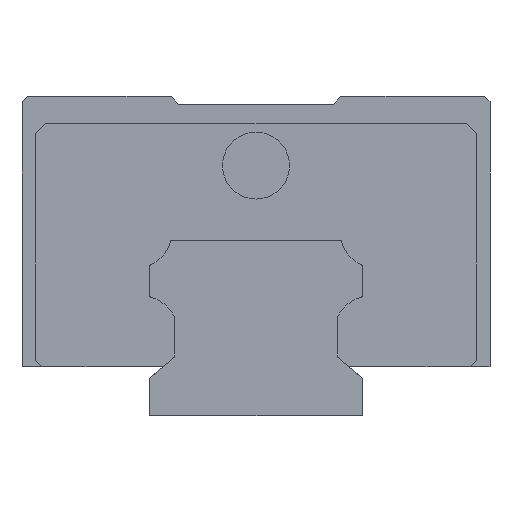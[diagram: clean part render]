
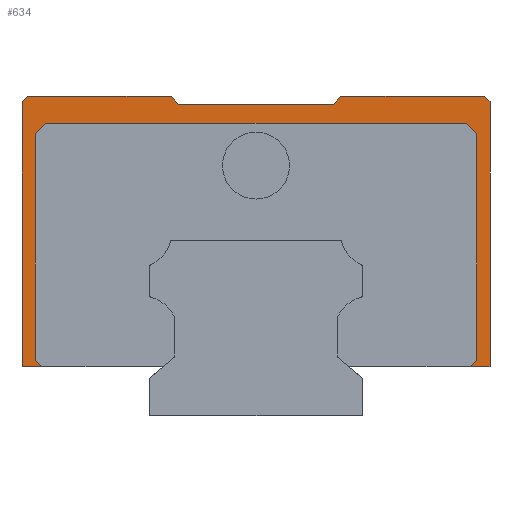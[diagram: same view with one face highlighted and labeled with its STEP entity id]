
A CAD part, left-side view. The second image highlights one B-rep face of the part: STEP entity #634.
In plain terms, the highlighted planar face has unit normal (-1, 0, 0).
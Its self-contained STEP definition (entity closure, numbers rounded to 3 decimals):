
#1 = LINE ( 'NONE', #1797, #4242 ) ;
#51 = EDGE_CURVE ( 'NONE', #1444, #1839, #5036, .T. ) ;
#104 = CARTESIAN_POINT ( 'NONE',  ( -27., -33.775, 18.225 ) ) ;
#132 = VECTOR ( 'NONE', #3317, 1000. ) ;
#138 = VECTOR ( 'NONE', #1757, 1000. ) ;
#140 = PLANE ( 'NONE',  #655 ) ;
#141 = VERTEX_POINT ( 'NONE', #4534 ) ;
#153 = CARTESIAN_POINT ( 'NONE',  ( -27., -7.333, 29.25 ) ) ;
#196 = VERTEX_POINT ( 'NONE', #3313 ) ;
#265 = CARTESIAN_POINT ( 'NONE',  ( -27., 22., 30. ) ) ;
#293 = CARTESIAN_POINT ( 'NONE',  ( -27., -2.375, 49.625 ) ) ;
#347 = EDGE_CURVE ( 'NONE', #196, #1211, #3460, .T. ) ;
#356 = LINE ( 'NONE', #153, #1604 ) ;
#438 = DIRECTION ( 'NONE',  ( 0., -0.707, -0.707 ) ) ;
#492 = CARTESIAN_POINT ( 'NONE',  ( -27., -20.75, 30. ) ) ;
#529 = EDGE_CURVE ( 'NONE', #3648, #141, #1379, .T. ) ;
#585 = FACE_OUTER_BOUND ( 'NONE', #2844, .T. ) ;
#587 = ORIENTED_EDGE ( 'NONE', *, *, #1715, .T. ) ;
#620 = DIRECTION ( 'NONE',  ( 0., 0., -1. ) ) ;
#634 = ADVANCED_FACE ( 'NONE', ( #585 ), #140, .F. ) ;
#637 = VERTEX_POINT ( 'NONE', #1526 ) ;
#655 = AXIS2_PLACEMENT_3D ( 'NONE', #5496, #4259, #1554 ) ;
#829 = CARTESIAN_POINT ( 'NONE',  ( -27., -22., 30. ) ) ;
#908 = LINE ( 'NONE', #829, #5188 ) ;
#912 = ORIENTED_EDGE ( 'NONE', *, *, #529, .F. ) ;
#984 = CARTESIAN_POINT ( 'NONE',  ( -27., 7.963, 30. ) ) ;
#998 = DIRECTION ( 'NONE',  ( 0., 1., 0. ) ) ;
#1059 = CARTESIAN_POINT ( 'NONE',  ( -27., 22., 30. ) ) ;
#1211 = VERTEX_POINT ( 'NONE', #984 ) ;
#1276 = ORIENTED_EDGE ( 'NONE', *, *, #5374, .F. ) ;
#1298 = DIRECTION ( 'NONE',  ( 0., -1., 0. ) ) ;
#1338 = VECTOR ( 'NONE', #4505, 1000. ) ;
#1379 = LINE ( 'NONE', #3157, #2161 ) ;
#1432 = VECTOR ( 'NONE', #2845, 1000. ) ;
#1440 = LINE ( 'NONE', #3218, #5666 ) ;
#1444 = VERTEX_POINT ( 'NONE', #5692 ) ;
#1526 = CARTESIAN_POINT ( 'NONE',  ( -27., -7.963, 30. ) ) ;
#1535 = ORIENTED_EDGE ( 'NONE', *, *, #2574, .T. ) ;
#1554 = DIRECTION ( 'NONE',  ( 0., 1., 0. ) ) ;
#1580 = CARTESIAN_POINT ( 'NONE',  ( -27., -21.5, 30. ) ) ;
#1604 = VECTOR ( 'NONE', #2087, 1000. ) ;
#1627 = VERTEX_POINT ( 'NONE', #2735 ) ;
#1639 = CARTESIAN_POINT ( 'NONE',  ( -27., -22., 4.6 ) ) ;
#1715 = EDGE_CURVE ( 'NONE', #3945, #4485, #356, .T. ) ;
#1751 = VERTEX_POINT ( 'NONE', #5536 ) ;
#1757 = DIRECTION ( 'NONE',  ( 0., 0.643, -0.766 ) ) ;
#1797 = CARTESIAN_POINT ( 'NONE',  ( -27., 7.333, 29.25 ) ) ;
#1830 = DIRECTION ( 'NONE',  ( 0., 0.707, 0.707 ) ) ;
#1839 = VERTEX_POINT ( 'NONE', #4438 ) ;
#1880 = DIRECTION ( 'NONE',  ( 0., 0., 1. ) ) ;
#1902 = DIRECTION ( 'NONE',  ( 0., -0.707, 0.707 ) ) ;
#1955 = CARTESIAN_POINT ( 'NONE',  ( -27., 20.75, 5.2 ) ) ;
#1973 = CARTESIAN_POINT ( 'NONE',  ( -27., -7.333, 29.25 ) ) ;
#2077 = DIRECTION ( 'NONE',  ( 0., 0.707, 0.707 ) ) ;
#2087 = DIRECTION ( 'NONE',  ( 0., 1., 0. ) ) ;
#2145 = DIRECTION ( 'NONE',  ( 0., 0.707, -0.707 ) ) ;
#2161 = VECTOR ( 'NONE', #438, 1000. ) ;
#2229 = VERTEX_POINT ( 'NONE', #1639 ) ;
#2230 = CARTESIAN_POINT ( 'NONE',  ( -27., 20.75, 26.5 ) ) ;
#2287 = ORIENTED_EDGE ( 'NONE', *, *, #51, .F. ) ;
#2574 = EDGE_CURVE ( 'NONE', #196, #1839, #3144, .T. ) ;
#2605 = EDGE_CURVE ( 'NONE', #4485, #1211, #1, .T. ) ;
#2608 = DIRECTION ( 'NONE',  ( 0., 0., -1. ) ) ;
#2610 = CARTESIAN_POINT ( 'NONE',  ( -27., -7.963, 30. ) ) ;
#2631 = ORIENTED_EDGE ( 'NONE', *, *, #4371, .T. ) ;
#2724 = ORIENTED_EDGE ( 'NONE', *, *, #3132, .F. ) ;
#2735 = CARTESIAN_POINT ( 'NONE',  ( -27., -20.15, 4.6 ) ) ;
#2844 = EDGE_LOOP ( 'NONE', ( #912, #5135, #3697, #3494, #2870, #3156, #1276, #5573, #4728, #2631, #2724, #4199, #587, #3244, #4592, #1535, #2287, #3653 ) ) ;
#2845 = DIRECTION ( 'NONE',  ( 0., -1., 0. ) ) ;
#2870 = ORIENTED_EDGE ( 'NONE', *, *, #4547, .F. ) ;
#2939 = DIRECTION ( 'NONE',  ( 0., 1., 0. ) ) ;
#3108 = EDGE_CURVE ( 'NONE', #5308, #4830, #1440, .T. ) ;
#3132 = EDGE_CURVE ( 'NONE', #637, #3136, #3275, .T. ) ;
#3136 = VERTEX_POINT ( 'NONE', #1580 ) ;
#3144 = LINE ( 'NONE', #4954, #1338 ) ;
#3156 = ORIENTED_EDGE ( 'NONE', *, *, #4112, .F. ) ;
#3157 = CARTESIAN_POINT ( 'NONE',  ( -27., 11.775, -3.775 ) ) ;
#3213 = LINE ( 'NONE', #104, #5404 ) ;
#3218 = CARTESIAN_POINT ( 'NONE',  ( -27., -22., 27.5 ) ) ;
#3244 = ORIENTED_EDGE ( 'NONE', *, *, #2605, .T. ) ;
#3275 = LINE ( 'NONE', #1059, #1432 ) ;
#3281 = VERTEX_POINT ( 'NONE', #2230 ) ;
#3300 = DIRECTION ( 'NONE',  ( 0., 0., 1. ) ) ;
#3313 = CARTESIAN_POINT ( 'NONE',  ( -27., 21.5, 30. ) ) ;
#3317 = DIRECTION ( 'NONE',  ( 0., 1., 0. ) ) ;
#3318 = EDGE_CURVE ( 'NONE', #3913, #2229, #908, .T. ) ;
#3393 = VECTOR ( 'NONE', #2077, 1000. ) ;
#3460 = LINE ( 'NONE', #265, #3740 ) ;
#3494 = ORIENTED_EDGE ( 'NONE', *, *, #3108, .F. ) ;
#3648 = VERTEX_POINT ( 'NONE', #1955 ) ;
#3653 = ORIENTED_EDGE ( 'NONE', *, *, #3986, .F. ) ;
#3684 = LINE ( 'NONE', #492, #4629 ) ;
#3697 = ORIENTED_EDGE ( 'NONE', *, *, #5166, .F. ) ;
#3725 = CARTESIAN_POINT ( 'NONE',  ( -27., 20.75, 30. ) ) ;
#3735 = VECTOR ( 'NONE', #1880, 1000. ) ;
#3740 = VECTOR ( 'NONE', #1298, 1000. ) ;
#3913 = VERTEX_POINT ( 'NONE', #5477 ) ;
#3945 = VERTEX_POINT ( 'NONE', #1973 ) ;
#3986 = EDGE_CURVE ( 'NONE', #141, #1444, #5274, .T. ) ;
#4112 = EDGE_CURVE ( 'NONE', #1751, #4711, #3684, .T. ) ;
#4119 = CARTESIAN_POINT ( 'NONE',  ( -27., -19.625, 27.625 ) ) ;
#4199 = ORIENTED_EDGE ( 'NONE', *, *, #5285, .T. ) ;
#4207 = LINE ( 'NONE', #4271, #132 ) ;
#4242 = VECTOR ( 'NONE', #5801, 1000. ) ;
#4250 = VECTOR ( 'NONE', #1830, 1000. ) ;
#4259 = DIRECTION ( 'NONE',  ( 1., 0., 0. ) ) ;
#4271 = CARTESIAN_POINT ( 'NONE',  ( -27., -22., 4.6 ) ) ;
#4371 = EDGE_CURVE ( 'NONE', #3913, #3136, #5232, .T. ) ;
#4438 = CARTESIAN_POINT ( 'NONE',  ( -27., 22., 29.5 ) ) ;
#4448 = CARTESIAN_POINT ( 'NONE',  ( -27., 19.75, 27.5 ) ) ;
#4485 = VERTEX_POINT ( 'NONE', #5366 ) ;
#4505 = DIRECTION ( 'NONE',  ( 0., 0.707, -0.707 ) ) ;
#4534 = CARTESIAN_POINT ( 'NONE',  ( -27., 20.15, 4.6 ) ) ;
#4547 = EDGE_CURVE ( 'NONE', #4711, #5308, #4980, .T. ) ;
#4561 = VECTOR ( 'NONE', #2145, 1000. ) ;
#4592 = ORIENTED_EDGE ( 'NONE', *, *, #347, .F. ) ;
#4629 = VECTOR ( 'NONE', #3300, 1000. ) ;
#4711 = VERTEX_POINT ( 'NONE', #5187 ) ;
#4728 = ORIENTED_EDGE ( 'NONE', *, *, #3318, .F. ) ;
#4730 = EDGE_CURVE ( 'NONE', #2229, #1627, #4207, .T. ) ;
#4795 = LINE ( 'NONE', #293, #4561 ) ;
#4823 = CARTESIAN_POINT ( 'NONE',  ( -27., -22., 29.5 ) ) ;
#4830 = VERTEX_POINT ( 'NONE', #4448 ) ;
#4832 = LINE ( 'NONE', #2610, #138 ) ;
#4927 = CARTESIAN_POINT ( 'NONE',  ( -27., 22., 4.6 ) ) ;
#4954 = CARTESIAN_POINT ( 'NONE',  ( -27., 21.5, 30. ) ) ;
#4980 = LINE ( 'NONE', #4119, #4250 ) ;
#5036 = LINE ( 'NONE', #4927, #3735 ) ;
#5135 = ORIENTED_EDGE ( 'NONE', *, *, #5158, .F. ) ;
#5151 = LINE ( 'NONE', #3725, #5596 ) ;
#5158 = EDGE_CURVE ( 'NONE', #3281, #3648, #5151, .T. ) ;
#5166 = EDGE_CURVE ( 'NONE', #4830, #3281, #4795, .T. ) ;
#5186 = CARTESIAN_POINT ( 'NONE',  ( -27., 9., 4.6 ) ) ;
#5187 = CARTESIAN_POINT ( 'NONE',  ( -27., -20.75, 26.5 ) ) ;
#5188 = VECTOR ( 'NONE', #2608, 1000. ) ;
#5232 = LINE ( 'NONE', #4823, #3393 ) ;
#5274 = LINE ( 'NONE', #5186, #5380 ) ;
#5285 = EDGE_CURVE ( 'NONE', #637, #3945, #4832, .T. ) ;
#5308 = VERTEX_POINT ( 'NONE', #5763 ) ;
#5366 = CARTESIAN_POINT ( 'NONE',  ( -27., 7.333, 29.25 ) ) ;
#5374 = EDGE_CURVE ( 'NONE', #1627, #1751, #3213, .T. ) ;
#5380 = VECTOR ( 'NONE', #2939, 1000. ) ;
#5404 = VECTOR ( 'NONE', #1902, 1000. ) ;
#5477 = CARTESIAN_POINT ( 'NONE',  ( -27., -22., 29.5 ) ) ;
#5496 = CARTESIAN_POINT ( 'NONE',  ( -27., -22., 30. ) ) ;
#5536 = CARTESIAN_POINT ( 'NONE',  ( -27., -20.75, 5.2 ) ) ;
#5573 = ORIENTED_EDGE ( 'NONE', *, *, #4730, .F. ) ;
#5596 = VECTOR ( 'NONE', #620, 1000. ) ;
#5666 = VECTOR ( 'NONE', #998, 1000. ) ;
#5692 = CARTESIAN_POINT ( 'NONE',  ( -27., 22., 4.6 ) ) ;
#5763 = CARTESIAN_POINT ( 'NONE',  ( -27., -19.75, 27.5 ) ) ;
#5801 = DIRECTION ( 'NONE',  ( 0., 0.643, 0.766 ) ) ;
